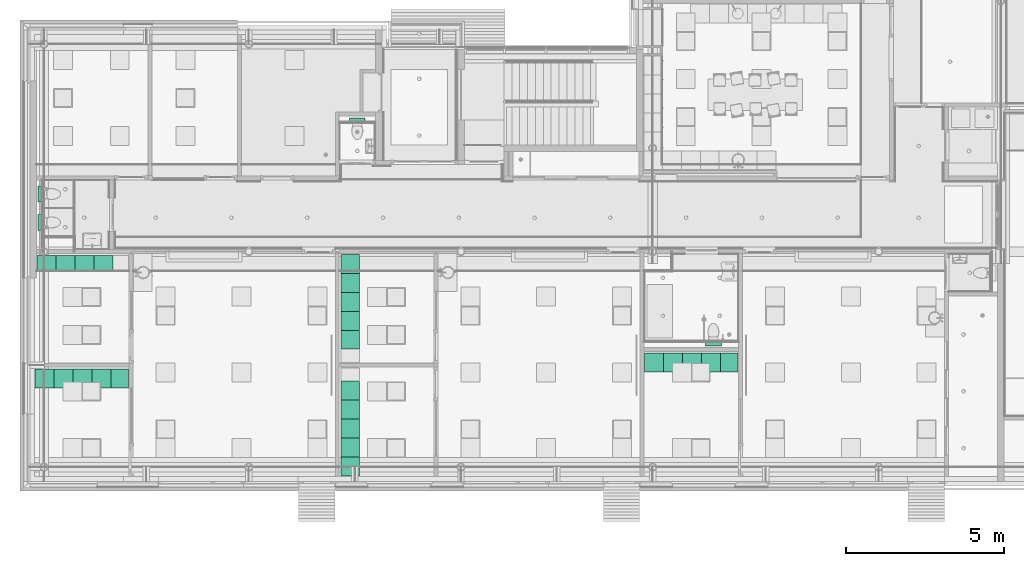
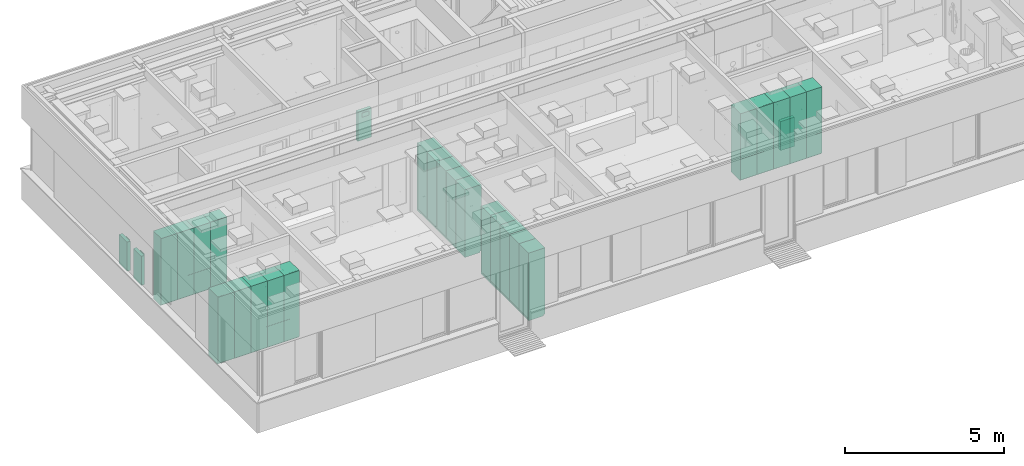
# One storey, part 177 of 347: 24 distribution elements, 4 flow terminals.
"""IFC2X3 building model written with IfcOpenShell, lengths in millimetres."""

from ifc_helpers import new_model, entity, si_unit, converted_unit, derived_unit, money_unit, direction, frame, origin_with_axes, place, context, subcontext, project, spatial, open_shell, faceted_brep, surface_model, source, transform, mapped, type_object, type_shapes, element, save


model = new_model("IFC2X3")

# Units and contexts
model_context = context("Model", 3, precision=0.01, world=origin_with_axes(), true_north=direction((0.0, 1.0)))
plan_context = context("Plan", 3, precision=0.01, world=origin_with_axes(), true_north=direction((0.0, 1.0)))
body_context = subcontext(model_context, "Body", "Model", "MODEL_VIEW")
ifc_project = project(units=[si_unit("LENGTHUNIT", "METRE", prefix="MILLI"), si_unit("AREAUNIT", "SQUARE_METRE"), si_unit("VOLUMEUNIT", "CUBIC_METRE"), converted_unit("PLANEANGLEUNIT", "DEGREE", entity("IfcPlaneAngleMeasure", 0.0174532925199), si_unit("PLANEANGLEUNIT", "RADIAN"), dimensions=[0, 0, 0, 0, 0, 0, 0]), money_unit("EUR"), converted_unit("TIMEUNIT", "Year", entity("IfcTimeMeasure", 31556926.0), si_unit("TIMEUNIT", "SECOND"), dimensions=[0, 0, 1, 0, 0, 0, 0]), si_unit("MASSUNIT", "GRAM", prefix="KILO"), si_unit("THERMODYNAMICTEMPERATUREUNIT", "DEGREE_CELSIUS"), si_unit("LUMINOUSINTENSITYUNIT", "LUMEN"), si_unit("ENERGYUNIT", "JOULE", prefix="MEGA"), derived_unit("THERMALCONDUCTANCEUNIT", [(si_unit("POWERUNIT", "WATT"), 1), (si_unit("LENGTHUNIT", "METRE"), -1), (si_unit("THERMODYNAMICTEMPERATUREUNIT", "KELVIN"), -1)]), derived_unit("SPECIFICHEATCAPACITYUNIT", [(si_unit("ENERGYUNIT", "JOULE"), 1), (si_unit("MASSUNIT", "GRAM", prefix="KILO"), -1), (si_unit("THERMODYNAMICTEMPERATUREUNIT", "KELVIN"), -1)]), derived_unit("MASSDENSITYUNIT", [(si_unit("MASSUNIT", "GRAM", prefix="KILO"), 1), (si_unit("VOLUMEUNIT", "CUBIC_METRE"), -1)])], contexts=[model_context, plan_context])

# Site, building, storey
site_placement = place(None, origin_with_axes())
site = spatial("IfcSite", under=ifc_project, at=site_placement, Name="Site", CompositionType="ELEMENT")
building_placement = place(site_placement, origin_with_axes())
building = spatial("IfcBuilding", under=site, at=building_placement, Name="Naam gebouw", CompositionType="ELEMENT")
storey_placement = place(building_placement, origin_with_axes())
storey = spatial("IfcBuildingStorey", under=building, at=storey_placement, Name="begane grond", CompositionType="ELEMENT", Elevation=0.0)

# Flow terminals
sanitary_terminal_type = type_object("IfcSanitaryTerminalType", Name="Inbouwreservoir 25 KM", PredefinedType="CISTERN")
shared_shape_1 = source(origin_with_axes(), body_context, "Body", "SurfaceModel", [
    faceted_brep([(0.0, 0.0, 0.0), (500.0, 0.0, 0.0), (500.0, 0.0, 1120.0), (0.0, 0.0, 1120.0), (0.0, 120.0, 0.0), (500.0, 120.0, 0.0), (500.0, 120.0, 1120.0), (0.0, 120.0, 1120.0)], [[[0, 1, 2, 3]], [[0, 4, 5, 1]], [[1, 5, 6, 2]], [[3, 2, 6, 7]], [[4, 0, 3, 7]], [[5, 4, 7, 6]]]),
    surface_model("IfcShellBasedSurfaceModel", [(1.0, 0.0, 0.0), (499.0, 0.0, 0.0), (499.0, 120.0, 1120.0), (1.0, 120.0, 1120.0)], [open_shell([[[0, 1, 2, 3]]])]),
    surface_model("IfcShellBasedSurfaceModel", [(1.0, 0.0, 1120.0), (499.0, 0.0, 1120.0), (499.0, 120.0, 0.0), (1.0, 120.0, 0.0)], [open_shell([[[0, 1, 2, 3]]])]),
    faceted_brep([(375.0, -60.0, 920.0), (125.0, -60.0, 920.0), (125.0, -50.0, 920.0), (375.0, -50.0, 920.0), (375.0, -60.0, 1080.0), (125.0, -60.0, 1080.0), (125.0, -50.0, 1080.0), (375.0, -50.0, 1080.0)], [[[0, 1, 2, 3]], [[1, 0, 4, 5]], [[2, 1, 5, 6]], [[3, 2, 6, 7]], [[0, 3, 7, 4]], [[5, 4, 7, 6]]]),
    faceted_brep([(325.0, 0.0, 950.0), (175.0, 0.0, 950.0), (175.0, 0.0, 1050.0), (325.0, 0.0, 1050.0), (325.0, -50.0, 950.0), (175.0, -50.0, 950.0), (175.0, -50.0, 1050.0), (325.0, -50.0, 1050.0)], [[[0, 1, 2, 3]], [[1, 0, 4, 5]], [[2, 1, 5, 6]], [[3, 2, 6, 7]], [[0, 3, 7, 4]], [[5, 4, 7, 6]]]),
    surface_model("IfcShellBasedSurfaceModel", [(175.0, -60.0, 920.0), (325.0, -60.0, 920.0), (325.0, -60.0, 955.0), (175.0, -60.0, 955.0)], [open_shell([[[0, 1, 2, 3]]])]),
    surface_model("IfcShellBasedSurfaceModel", [(175.0, -60.0, 955.0), (265.0, -60.0, 955.0), (265.0, -60.0, 1045.0), (175.0, -60.0, 1045.0)], [open_shell([[[0, 1, 2, 3]]])]),
    surface_model("IfcShellBasedSurfaceModel", [(265.0, -60.0, 955.0), (325.0, -60.0, 955.0), (325.0, -60.0, 1045.0), (265.0, -60.0, 1045.0)], [open_shell([[[0, 1, 2, 3]]])]),
])
for number, where, z_axis, x_axis, name in (
    (1, (5229.99999988, 13700.0000527, 0.0), (0.0, 0.0, 1.0), (0.0, 1.0, 0.0), "53_Sanitair-inbouw DuoFix"),
    (2, (5229.99999988, 12800.0000527, 0.0), (0.0, 0.0, 1.0), (0.0, 1.0, 0.0), "53_Sanitair-inbouw DuoFix"),
    (3, (14972.5, 16244.9999999, 0.0), (0.0, 0.0, 1.0), (1.0, 0.0, 0.0), "53_Sanitair-inbouw DuoFix"),
):
    element("IfcFlowTerminal", number, at=place(storey_placement, frame(where, z_axis=z_axis, x_axis=x_axis)), inside=storey, type_object=sanitary_terminal_type, Name=name, context=body_context, shape_type="MappedRepresentation", body=[
        mapped(shared_shape_1, transform((0.0, 0.0, 0.0))),
    ])
shared_shape_2 = source(origin_with_axes(), body_context, "Body", "SurfaceModel", [
    faceted_brep([(0.0, 0.0, 0.0), (0.0, 0.0, 1120.0), (-500.0, 0.0, 1120.0), (-500.0, 0.0, 0.0), (0.0, 120.0, 0.0), (0.0, 120.0, 1120.0), (-500.0, 120.0, 1120.0), (-500.0, 120.0, 0.0)], [[[0, 1, 2, 3]], [[4, 5, 1, 0]], [[1, 5, 6, 2]], [[3, 2, 6, 7]], [[0, 3, 7, 4]], [[7, 6, 5, 4]]]),
    surface_model("IfcShellBasedSurfaceModel", [(-1.0, 0.0, 0.0), (-1.0, 120.0, 1120.0), (-499.0, 120.0, 1120.0), (-499.0, 0.0, 0.0)], [open_shell([[[0, 1, 2, 3]]])]),
    surface_model("IfcShellBasedSurfaceModel", [(-1.0, 0.0, 1120.0), (-1.0, 120.0, 0.0), (-499.0, 120.0, 0.0), (-499.0, 0.0, 1120.0)], [open_shell([[[0, 1, 2, 3]]])]),
    faceted_brep([(-375.0, -60.0, 920.0), (-375.0, -50.0, 920.0), (-125.0, -50.0, 920.0), (-125.0, -60.0, 920.0), (-375.0, -60.0, 1080.0), (-375.0, -50.0, 1080.0), (-125.0, -50.0, 1080.0), (-125.0, -60.0, 1080.0)], [[[0, 1, 2, 3]], [[0, 4, 5, 1]], [[1, 5, 6, 2]], [[2, 6, 7, 3]], [[3, 7, 4, 0]], [[7, 6, 5, 4]]]),
    faceted_brep([(-325.0, 0.0, 950.0), (-325.0, 0.0, 1050.0), (-175.0, 0.0, 1050.0), (-175.0, 0.0, 950.0), (-325.0, -50.0, 950.0), (-325.0, -50.0, 1050.0), (-175.0, -50.0, 1050.0), (-175.0, -50.0, 950.0)], [[[0, 1, 2, 3]], [[0, 4, 5, 1]], [[1, 5, 6, 2]], [[2, 6, 7, 3]], [[3, 7, 4, 0]], [[7, 6, 5, 4]]]),
    surface_model("IfcShellBasedSurfaceModel", [(-175.0, -60.0, 920.0), (-175.0, -60.0, 955.0), (-325.0, -60.0, 955.0), (-325.0, -60.0, 920.0)], [open_shell([[[0, 1, 2, 3]]])]),
    surface_model("IfcShellBasedSurfaceModel", [(-175.0, -60.0, 955.0), (-175.0, -60.0, 1045.0), (-265.0, -60.0, 1045.0), (-265.0, -60.0, 955.0)], [open_shell([[[0, 1, 2, 3]]])]),
    surface_model("IfcShellBasedSurfaceModel", [(-265.0, -60.0, 955.0), (-265.0, -60.0, 1045.0), (-325.0, -60.0, 1045.0), (-325.0, -60.0, 955.0)], [open_shell([[[0, 1, 2, 3]]])]),
])
type_shapes(sanitary_terminal_type, [shared_shape_1, shared_shape_2])
flow_terminal_placement = place(storey_placement, frame((26250.0, 9260.0, 0.0), z_axis=(0.0, 0.0, 1.0), x_axis=(-1.0, 0.0, 0.0)))
element("IfcFlowTerminal", 4, at=flow_terminal_placement, inside=storey, type_object=sanitary_terminal_type, Name="53_Sanitair-inbouw DuoFix", context=body_context, shape_type="MappedRepresentation", body=[
    mapped(shared_shape_2, transform((0.0, 0.0, 0.0))),
])

# Distribution elements
distribution_element_type = type_object("IfcDistributionElementType", Name="Hoge kast recht 25")
shared_shape_3 = source(origin_with_axes(), body_context, "Body", "Brep", [
    faceted_brep([(18.0, -580.0, 841.0), (582.0, -580.0, 841.0), (582.0, -580.0, 859.0), (18.0, -580.0, 859.0), (18.0, -18.0, 841.0), (582.0, -18.0, 841.0), (582.0, -18.0, 859.0), (18.0, -18.0, 859.0)], [[[0, 1, 2, 3]], [[0, 4, 5, 1]], [[1, 5, 6, 2]], [[3, 2, 6, 7]], [[4, 0, 3, 7]], [[5, 4, 7, 6]]]),
    faceted_brep([(1.0, -580.0, 51.0), (599.0, -580.0, 51.0), (599.0, -598.0, 51.0), (1.0, -598.0, 51.0), (1.0, -580.0, 849.0), (599.0, -580.0, 849.0), (599.0, -598.0, 849.0), (1.0, -598.0, 849.0)], [[[0, 1, 2, 3]], [[0, 4, 5, 1]], [[1, 5, 6, 2]], [[3, 2, 6, 7]], [[4, 0, 3, 7]], [[5, 4, 7, 6]]]),
    faceted_brep([(1.0, -580.0, 851.0), (599.0, -580.0, 851.0), (599.0, -598.0, 851.0), (1.0, -598.0, 851.0), (1.0, -580.0, 2599.0), (599.0, -580.0, 2599.0), (599.0, -598.0, 2599.0), (1.0, -598.0, 2599.0)], [[[0, 1, 2, 3]], [[0, 4, 5, 1]], [[1, 5, 6, 2]], [[3, 2, 6, 7]], [[4, 0, 3, 7]], [[5, 4, 7, 6]]]),
    faceted_brep([(18.0, -580.0, 50.0), (582.0, -580.0, 50.0), (582.0, -580.0, 68.0), (18.0, -580.0, 68.0), (18.0, 0.0, 50.0), (582.0, 0.0, 50.0), (582.0, 0.0, 68.0), (18.0, 0.0, 68.0)], [[[0, 1, 2, 3]], [[0, 4, 5, 1]], [[1, 5, 6, 2]], [[3, 2, 6, 7]], [[4, 0, 3, 7]], [[5, 4, 7, 6]]]),
    faceted_brep([(18.0, -580.0, 2582.0), (582.0, -580.0, 2582.0), (582.0, -580.0, 2600.0), (18.0, -580.0, 2600.0), (18.0, 0.0, 2582.0), (582.0, 0.0, 2582.0), (582.0, 0.0, 2600.0), (18.0, 0.0, 2600.0)], [[[0, 1, 2, 3]], [[0, 4, 5, 1]], [[1, 5, 6, 2]], [[3, 2, 6, 7]], [[4, 0, 3, 7]], [[5, 4, 7, 6]]]),
    faceted_brep([(0.0, 0.0, 50.0), (0.0, -580.0, 50.0), (0.0, -580.0, 2600.0), (0.0, 0.0, 2600.0), (18.0, 0.0, 50.0), (18.0, -580.0, 50.0), (18.0, -580.0, 2600.0), (18.0, 0.0, 2600.0)], [[[0, 1, 2, 3]], [[0, 4, 5, 1]], [[1, 5, 6, 2]], [[3, 2, 6, 7]], [[4, 0, 3, 7]], [[5, 4, 7, 6]]]),
    faceted_brep([(600.0, -580.0, 50.0), (600.0, 0.0, 50.0), (600.0, 0.0, 2600.0), (600.0, -580.0, 2600.0), (582.0, -580.0, 50.0), (582.0, 0.0, 50.0), (582.0, 0.0, 2600.0), (582.0, -580.0, 2600.0)], [[[0, 1, 2, 3]], [[0, 4, 5, 1]], [[1, 5, 6, 2]], [[3, 2, 6, 7]], [[4, 0, 3, 7]], [[5, 4, 7, 6]]]),
    faceted_brep([(582.0, -9.0, 68.0), (18.0, -9.0, 68.0), (18.0, -9.0, 2582.0), (582.0, -9.0, 2582.0), (582.0, -18.0, 68.0), (18.0, -18.0, 68.0), (18.0, -18.0, 2582.0), (582.0, -18.0, 2582.0)], [[[0, 1, 2, 3]], [[0, 4, 5, 1]], [[1, 5, 6, 2]], [[3, 2, 6, 7]], [[4, 0, 3, 7]], [[5, 4, 7, 6]]]),
    faceted_brep([(0.0, -550.0, 0.0), (600.0, -550.0, 0.0), (600.0, -550.0, 50.0), (0.0, -550.0, 50.0), (0.0, 0.0, 0.0), (600.0, 0.0, 0.0), (600.0, 0.0, 50.0), (0.0, 0.0, 50.0)], [[[0, 1, 2, 3]], [[0, 4, 5, 1]], [[1, 5, 6, 2]], [[3, 2, 6, 7]], [[4, 0, 3, 7]], [[5, 4, 7, 6]]]),
])
for number, where, z_axis, x_axis, name in (
    (5, (24920.0, 8913.0, 0.0), (0.0, 0.0, 1.0), (1.0, 0.0, 0.0), "65 Beveiliging_80 garderobe"),
    (6, (26120.0, 8913.0, 0.0), (0.0, 0.0, 1.0), (1.0, 0.0, 0.0), "65 Beveiliging_80 garderobe"),
    (7, (25520.0, 8913.0, 0.0), (0.0, 0.0, 1.0), (1.0, 0.0, 0.0), "65 Beveiliging_80 garderobe"),
    (8, (24320.0, 8913.0, 0.0), (0.0, 0.0, 1.0), (1.0, 0.0, 0.0), "65 Beveiliging_80 garderobe"),
    (9, (5020.0, 8411.99997201, 0.0), (0.0, 0.0, 1.0), (1.0, 0.0, 0.0), "65 Beveiliging_80 garderobe"),
    (10, (5620.0, 8411.99997201, 0.0), (0.0, 0.0, 1.0), (1.0, 0.0, 0.0), "65 Beveiliging_80 garderobe"),
    (11, (6220.0, 8411.99997201, 0.0), (0.0, 0.0, 1.0), (1.0, 0.0, 0.0), "65 Beveiliging_80 garderobe"),
    (12, (6820.0, 8411.99997201, 0.0), (0.0, 0.0, 1.0), (1.0, 0.0, 0.0), "65 Beveiliging_80 garderobe"),
    (13, (14702.0, 5020.00000012, 0.0), (0.0, 0.0, 1.0), (0.0, 1.0, 0.0), "65 Beveiliging_80 garderobe"),
    (14, (14702.0, 5620.00000012, 0.0), (0.0, 0.0, 1.0), (0.0, 1.0, 0.0), "65 Beveiliging_80 garderobe"),
    (15, (14702.0, 6220.00000012, 0.0), (0.0, 0.0, 1.0), (0.0, 1.0, 0.0), "65 Beveiliging_80 garderobe"),
    (16, (14702.0, 6820.00000012, 0.0), (0.0, 0.0, 1.0), (0.0, 1.0, 0.0), "65 Beveiliging_80 garderobe"),
    (17, (14702.0, 7420.00000012, 0.0), (0.0, 0.0, 1.0), (0.0, 1.0, 0.0), "65 Beveiliging_80 garderobe"),
):
    element("IfcDistributionElement", number, at=place(storey_placement, frame(where, z_axis=z_axis, x_axis=x_axis)), inside=storey, type_object=distribution_element_type, Name=name, context=body_context, shape_type="MappedRepresentation", body=[
        mapped(shared_shape_3, transform((0.0, 0.0, 0.0))),
    ])
shared_shape_4 = source(origin_with_axes(), body_context, "Body", "Brep", [
    faceted_brep([(18.0, -580.0, 841.0), (542.0, -580.0, 841.0), (542.0, -580.0, 859.0), (18.0, -580.0, 859.0), (18.0, -18.0, 841.0), (542.0, -18.0, 841.0), (542.0, -18.0, 859.0), (18.0, -18.0, 859.0)], [[[0, 1, 2, 3]], [[0, 4, 5, 1]], [[1, 5, 6, 2]], [[3, 2, 6, 7]], [[4, 0, 3, 7]], [[5, 4, 7, 6]]]),
    faceted_brep([(1.0, -580.0, 51.0), (559.0, -580.0, 51.0), (559.0, -598.0, 51.0), (1.0, -598.0, 51.0), (1.0, -580.0, 849.0), (559.0, -580.0, 849.0), (559.0, -598.0, 849.0), (1.0, -598.0, 849.0)], [[[0, 1, 2, 3]], [[0, 4, 5, 1]], [[1, 5, 6, 2]], [[3, 2, 6, 7]], [[4, 0, 3, 7]], [[5, 4, 7, 6]]]),
    faceted_brep([(1.0, -580.0, 851.0), (559.0, -580.0, 851.0), (559.0, -598.0, 851.0), (1.0, -598.0, 851.0), (1.0, -580.0, 2599.0), (559.0, -580.0, 2599.0), (559.0, -598.0, 2599.0), (1.0, -598.0, 2599.0)], [[[0, 1, 2, 3]], [[0, 4, 5, 1]], [[1, 5, 6, 2]], [[3, 2, 6, 7]], [[4, 0, 3, 7]], [[5, 4, 7, 6]]]),
    faceted_brep([(18.0, -580.0, 50.0), (542.0, -580.0, 50.0), (542.0, -580.0, 68.0), (18.0, -580.0, 68.0), (18.0, 0.0, 50.0), (542.0, 0.0, 50.0), (542.0, 0.0, 68.0), (18.0, 0.0, 68.0)], [[[0, 1, 2, 3]], [[0, 4, 5, 1]], [[1, 5, 6, 2]], [[3, 2, 6, 7]], [[4, 0, 3, 7]], [[5, 4, 7, 6]]]),
    faceted_brep([(18.0, -580.0, 2582.0), (542.0, -580.0, 2582.0), (542.0, -580.0, 2600.0), (18.0, -580.0, 2600.0), (18.0, 0.0, 2582.0), (542.0, 0.0, 2582.0), (542.0, 0.0, 2600.0), (18.0, 0.0, 2600.0)], [[[0, 1, 2, 3]], [[0, 4, 5, 1]], [[1, 5, 6, 2]], [[3, 2, 6, 7]], [[4, 0, 3, 7]], [[5, 4, 7, 6]]]),
    faceted_brep([(0.0, 0.0, 50.0), (0.0, -580.0, 50.0), (0.0, -580.0, 2600.0), (0.0, 0.0, 2600.0), (18.0, 0.0, 50.0), (18.0, -580.0, 50.0), (18.0, -580.0, 2600.0), (18.0, 0.0, 2600.0)], [[[0, 1, 2, 3]], [[0, 4, 5, 1]], [[1, 5, 6, 2]], [[3, 2, 6, 7]], [[4, 0, 3, 7]], [[5, 4, 7, 6]]]),
    faceted_brep([(560.0, -580.0, 50.0), (560.0, 0.0, 50.0), (560.0, 0.0, 2600.0), (560.0, -580.0, 2600.0), (542.0, -580.0, 50.0), (542.0, 0.0, 50.0), (542.0, 0.0, 2600.0), (542.0, -580.0, 2600.0)], [[[0, 1, 2, 3]], [[0, 4, 5, 1]], [[1, 5, 6, 2]], [[3, 2, 6, 7]], [[4, 0, 3, 7]], [[5, 4, 7, 6]]]),
    faceted_brep([(542.0, -9.0, 68.0), (18.0, -9.0, 68.0), (18.0, -9.0, 2582.0), (542.0, -9.0, 2582.0), (542.0, -18.0, 68.0), (18.0, -18.0, 68.0), (18.0, -18.0, 2582.0), (542.0, -18.0, 2582.0)], [[[0, 1, 2, 3]], [[0, 4, 5, 1]], [[1, 5, 6, 2]], [[3, 2, 6, 7]], [[4, 0, 3, 7]], [[5, 4, 7, 6]]]),
    faceted_brep([(0.0, -550.0, 0.0), (560.0, -550.0, 0.0), (560.0, -550.0, 50.0), (0.0, -550.0, 50.0), (0.0, 0.0, 0.0), (560.0, 0.0, 0.0), (560.0, 0.0, 50.0), (0.0, 0.0, 50.0)], [[[0, 1, 2, 3]], [[0, 4, 5, 1]], [[1, 5, 6, 2]], [[3, 2, 6, 7]], [[4, 0, 3, 7]], [[5, 4, 7, 6]]]),
])
for number, where, z_axis, x_axis, name in (
    (18, (26720.0, 8913.0, 0.0), (0.0, 0.0, 1.0), (1.0, 0.0, 0.0), "65 Beveiliging_80 garderobe"),
    (19, (7420.0, 8411.99997201, 0.0), (0.0, 0.0, 1.0), (1.0, 0.0, 0.0), "65 Beveiliging_80 garderobe"),
):
    element("IfcDistributionElement", number, at=place(storey_placement, frame(where, z_axis=z_axis, x_axis=x_axis)), inside=storey, type_object=distribution_element_type, Name=name, context=body_context, shape_type="MappedRepresentation", body=[
        mapped(shared_shape_4, transform((0.0, 0.0, 0.0))),
    ])
shared_shape_5 = source(origin_with_axes(), body_context, "Body", "Brep", [
    faceted_brep([(18.0, -480.0, 841.0), (582.0, -480.0, 841.0), (582.0, -480.0, 859.0), (18.0, -480.0, 859.0), (18.0, -18.0, 841.0), (582.0, -18.0, 841.0), (582.0, -18.0, 859.0), (18.0, -18.0, 859.0)], [[[0, 1, 2, 3]], [[0, 4, 5, 1]], [[1, 5, 6, 2]], [[3, 2, 6, 7]], [[4, 0, 3, 7]], [[5, 4, 7, 6]]]),
    faceted_brep([(1.0, -480.0, 51.0), (599.0, -480.0, 51.0), (599.0, -498.0, 51.0), (1.0, -498.0, 51.0), (1.0, -480.0, 849.0), (599.0, -480.0, 849.0), (599.0, -498.0, 849.0), (1.0, -498.0, 849.0)], [[[0, 1, 2, 3]], [[0, 4, 5, 1]], [[1, 5, 6, 2]], [[3, 2, 6, 7]], [[4, 0, 3, 7]], [[5, 4, 7, 6]]]),
    faceted_brep([(1.0, -480.0, 851.0), (599.0, -480.0, 851.0), (599.0, -498.0, 851.0), (1.0, -498.0, 851.0), (1.0, -480.0, 2599.0), (599.0, -480.0, 2599.0), (599.0, -498.0, 2599.0), (1.0, -498.0, 2599.0)], [[[0, 1, 2, 3]], [[0, 4, 5, 1]], [[1, 5, 6, 2]], [[3, 2, 6, 7]], [[4, 0, 3, 7]], [[5, 4, 7, 6]]]),
    faceted_brep([(18.0, -480.0, 50.0), (582.0, -480.0, 50.0), (582.0, -480.0, 68.0), (18.0, -480.0, 68.0), (18.0, 0.0, 50.0), (582.0, 0.0, 50.0), (582.0, 0.0, 68.0), (18.0, 0.0, 68.0)], [[[0, 1, 2, 3]], [[0, 4, 5, 1]], [[1, 5, 6, 2]], [[3, 2, 6, 7]], [[4, 0, 3, 7]], [[5, 4, 7, 6]]]),
    faceted_brep([(18.0, -480.0, 2582.0), (582.0, -480.0, 2582.0), (582.0, -480.0, 2600.0), (18.0, -480.0, 2600.0), (18.0, 0.0, 2582.0), (582.0, 0.0, 2582.0), (582.0, 0.0, 2600.0), (18.0, 0.0, 2600.0)], [[[0, 1, 2, 3]], [[0, 4, 5, 1]], [[1, 5, 6, 2]], [[3, 2, 6, 7]], [[4, 0, 3, 7]], [[5, 4, 7, 6]]]),
    faceted_brep([(0.0, 0.0, 50.0), (0.0, -480.0, 50.0), (0.0, -480.0, 2600.0), (0.0, 0.0, 2600.0), (18.0, 0.0, 50.0), (18.0, -480.0, 50.0), (18.0, -480.0, 2600.0), (18.0, 0.0, 2600.0)], [[[0, 1, 2, 3]], [[0, 4, 5, 1]], [[1, 5, 6, 2]], [[3, 2, 6, 7]], [[4, 0, 3, 7]], [[5, 4, 7, 6]]]),
    faceted_brep([(600.0, -480.0, 50.0), (600.0, 0.0, 50.0), (600.0, 0.0, 2600.0), (600.0, -480.0, 2600.0), (582.0, -480.0, 50.0), (582.0, 0.0, 50.0), (582.0, 0.0, 2600.0), (582.0, -480.0, 2600.0)], [[[0, 1, 2, 3]], [[0, 4, 5, 1]], [[1, 5, 6, 2]], [[3, 2, 6, 7]], [[4, 0, 3, 7]], [[5, 4, 7, 6]]]),
    faceted_brep([(582.0, -9.0, 68.0), (18.0, -9.0, 68.0), (18.0, -9.0, 2582.0), (582.0, -9.0, 2582.0), (582.0, -18.0, 68.0), (18.0, -18.0, 68.0), (18.0, -18.0, 2582.0), (582.0, -18.0, 2582.0)], [[[0, 1, 2, 3]], [[0, 4, 5, 1]], [[1, 5, 6, 2]], [[3, 2, 6, 7]], [[4, 0, 3, 7]], [[5, 4, 7, 6]]]),
    faceted_brep([(0.0, -450.0, 0.0), (600.0, -450.0, 0.0), (600.0, -450.0, 50.0), (0.0, -450.0, 50.0), (0.0, 0.0, 0.0), (600.0, 0.0, 0.0), (600.0, 0.0, 50.0), (0.0, 0.0, 50.0)], [[[0, 1, 2, 3]], [[0, 4, 5, 1]], [[1, 5, 6, 2]], [[3, 2, 6, 7]], [[4, 0, 3, 7]], [[5, 4, 7, 6]]]),
])
for number, where, z_axis, x_axis, name in (
    (20, (5080.0, 11997.999972, 0.0), (0.0, 0.0, 1.0), (1.0, 0.0, 0.0), "65 Beveiliging_80 garderobe"),
    (21, (5680.0, 11997.999972, 0.0), (0.0, 0.0, 1.0), (1.0, 0.0, 0.0), "65 Beveiliging_80 garderobe"),
    (22, (6280.0, 11997.999972, 0.0), (0.0, 0.0, 1.0), (1.0, 0.0, 0.0), "65 Beveiliging_80 garderobe"),
    (23, (6880.0, 11997.999972, 0.0), (0.0, 0.0, 1.0), (1.0, 0.0, 0.0), "65 Beveiliging_80 garderobe"),
):
    element("IfcDistributionElement", number, at=place(storey_placement, frame(where, z_axis=z_axis, x_axis=x_axis)), inside=storey, type_object=distribution_element_type, Name=name, context=body_context, shape_type="MappedRepresentation", body=[
        mapped(shared_shape_5, transform((0.0, 0.0, 0.0))),
    ])
shared_shape_6 = source(origin_with_axes(), body_context, "Body", "Brep", [
    faceted_brep([(-18.0, -580.0, 841.0), (-18.0, -580.0, 859.0), (-582.0, -580.0, 859.0), (-582.0, -580.0, 841.0), (-18.0, -18.0, 841.0), (-18.0, -18.0, 859.0), (-582.0, -18.0, 859.0), (-582.0, -18.0, 841.0)], [[[0, 1, 2, 3]], [[4, 5, 1, 0]], [[1, 5, 6, 2]], [[3, 2, 6, 7]], [[0, 3, 7, 4]], [[7, 6, 5, 4]]]),
    faceted_brep([(-1.0, -580.0, 51.0), (-1.0, -598.0, 51.0), (-599.0, -598.0, 51.0), (-599.0, -580.0, 51.0), (-1.0, -580.0, 849.0), (-1.0, -598.0, 849.0), (-599.0, -598.0, 849.0), (-599.0, -580.0, 849.0)], [[[0, 1, 2, 3]], [[4, 5, 1, 0]], [[1, 5, 6, 2]], [[3, 2, 6, 7]], [[0, 3, 7, 4]], [[7, 6, 5, 4]]]),
    faceted_brep([(-1.0, -580.0, 851.0), (-1.0, -598.0, 851.0), (-599.0, -598.0, 851.0), (-599.0, -580.0, 851.0), (-1.0, -580.0, 2599.0), (-1.0, -598.0, 2599.0), (-599.0, -598.0, 2599.0), (-599.0, -580.0, 2599.0)], [[[0, 1, 2, 3]], [[4, 5, 1, 0]], [[1, 5, 6, 2]], [[3, 2, 6, 7]], [[0, 3, 7, 4]], [[7, 6, 5, 4]]]),
    faceted_brep([(-18.0, -580.0, 50.0), (-18.0, -580.0, 68.0), (-582.0, -580.0, 68.0), (-582.0, -580.0, 50.0), (-18.0, 0.0, 50.0), (-18.0, 0.0, 68.0), (-582.0, 0.0, 68.0), (-582.0, 0.0, 50.0)], [[[0, 1, 2, 3]], [[4, 5, 1, 0]], [[1, 5, 6, 2]], [[3, 2, 6, 7]], [[0, 3, 7, 4]], [[7, 6, 5, 4]]]),
    faceted_brep([(-18.0, -580.0, 2582.0), (-18.0, -580.0, 2600.0), (-582.0, -580.0, 2600.0), (-582.0, -580.0, 2582.0), (-18.0, 0.0, 2582.0), (-18.0, 0.0, 2600.0), (-582.0, 0.0, 2600.0), (-582.0, 0.0, 2582.0)], [[[0, 1, 2, 3]], [[4, 5, 1, 0]], [[1, 5, 6, 2]], [[3, 2, 6, 7]], [[0, 3, 7, 4]], [[7, 6, 5, 4]]]),
    faceted_brep([(0.0, 0.0, 50.0), (0.0, 0.0, 2600.0), (0.0, -580.0, 2600.0), (0.0, -580.0, 50.0), (-18.0, 0.0, 50.0), (-18.0, 0.0, 2600.0), (-18.0, -580.0, 2600.0), (-18.0, -580.0, 50.0)], [[[0, 1, 2, 3]], [[4, 5, 1, 0]], [[1, 5, 6, 2]], [[3, 2, 6, 7]], [[0, 3, 7, 4]], [[7, 6, 5, 4]]]),
    faceted_brep([(-600.0, -580.0, 50.0), (-600.0, -580.0, 2600.0), (-600.0, 0.0, 2600.0), (-600.0, 0.0, 50.0), (-582.0, -580.0, 50.0), (-582.0, -580.0, 2600.0), (-582.0, 0.0, 2600.0), (-582.0, 0.0, 50.0)], [[[0, 1, 2, 3]], [[4, 5, 1, 0]], [[1, 5, 6, 2]], [[3, 2, 6, 7]], [[0, 3, 7, 4]], [[7, 6, 5, 4]]]),
    faceted_brep([(-582.0, -9.0, 68.0), (-582.0, -9.0, 2582.0), (-18.0, -9.0, 2582.0), (-18.0, -9.0, 68.0), (-582.0, -18.0, 68.0), (-582.0, -18.0, 2582.0), (-18.0, -18.0, 2582.0), (-18.0, -18.0, 68.0)], [[[0, 1, 2, 3]], [[4, 5, 1, 0]], [[1, 5, 6, 2]], [[3, 2, 6, 7]], [[0, 3, 7, 4]], [[7, 6, 5, 4]]]),
    faceted_brep([(0.0, -550.0, 0.0), (0.0, -550.0, 50.0), (-600.0, -550.0, 50.0), (-600.0, -550.0, 0.0), (0.0, 0.0, 0.0), (0.0, 0.0, 50.0), (-600.0, 0.0, 50.0), (-600.0, 0.0, 0.0)], [[[0, 1, 2, 3]], [[4, 5, 1, 0]], [[1, 5, 6, 2]], [[3, 2, 6, 7]], [[0, 3, 7, 4]], [[7, 6, 5, 4]]]),
])
type_shapes(distribution_element_type, [shared_shape_3, shared_shape_4, shared_shape_5, shared_shape_6])
for number, where, z_axis, x_axis, name in (
    (24, (14702.0, 12034.9999999, 0.0), (0.0, 0.0, 1.0), (0.0, 1.0, 0.0), "65 Beveiliging_80 garderobe"),
    (25, (14702.0, 11434.9999999, 0.0), (0.0, 0.0, 1.0), (0.0, 1.0, 0.0), "65 Beveiliging_80 garderobe"),
    (26, (14702.0, 10834.9999999, 0.0), (0.0, 0.0, 1.0), (0.0, 1.0, 0.0), "65 Beveiliging_80 garderobe"),
    (27, (14702.0, 10234.9999999, 0.0), (0.0, 0.0, 1.0), (0.0, 1.0, 0.0), "65 Beveiliging_80 garderobe"),
    (28, (14702.0, 9634.99999988, 0.0), (0.0, 0.0, 1.0), (0.0, 1.0, 0.0), "65 Beveiliging_80 garderobe"),
):
    element("IfcDistributionElement", number, at=place(storey_placement, frame(where, z_axis=z_axis, x_axis=x_axis)), inside=storey, type_object=distribution_element_type, Name=name, context=body_context, shape_type="MappedRepresentation", body=[
        mapped(shared_shape_6, transform((0.0, 0.0, 0.0))),
    ])

save(model, "model.ifc")
